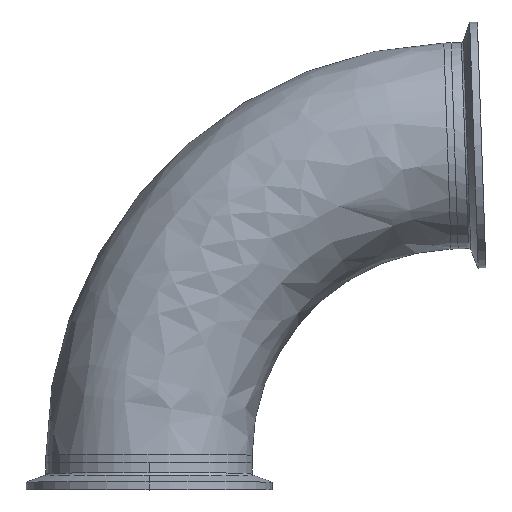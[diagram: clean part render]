
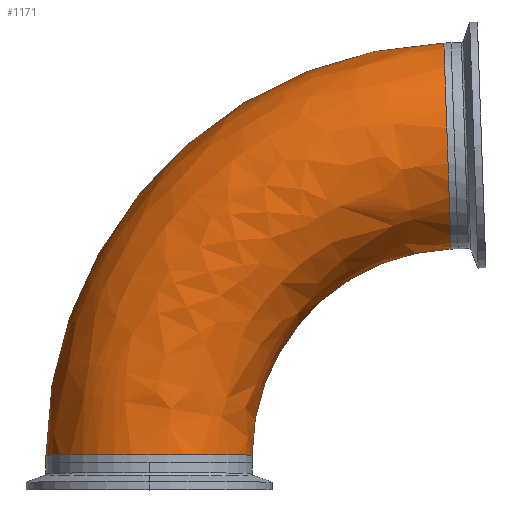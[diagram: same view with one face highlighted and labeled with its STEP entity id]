
A CAD part, top view. The second image highlights one B-rep face of the part: STEP entity #1171.
In plain terms, the highlighted free-form (B-spline) face has degree [3, 3] with [4, 4] control points.
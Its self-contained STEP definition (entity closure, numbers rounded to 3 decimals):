
#4 = CARTESIAN_POINT ( 'NONE',  ( 110.311, 117.069, 0. ) ) ;
#19 = CARTESIAN_POINT ( 'NONE',  ( 111.641, 78.992, 0. ) ) ;
#57 = DIRECTION ( 'NONE',  ( 0., 0., -1. ) ) ;
#105 = DIRECTION ( 'NONE',  ( -1., 0., 0. ) ) ;
#133 = DIRECTION ( 'NONE',  ( 0., 1., 0. ) ) ;
#251 = DIRECTION ( 'NONE',  ( -0.035, 0.999, 0. ) ) ;
#258 = CARTESIAN_POINT ( 'NONE',  ( 68.256, 77.477, 0. ) ) ;
#271 = CARTESIAN_POINT ( 'NONE',  ( 38.1, 46.25, 0. ) ) ;
#287 = CARTESIAN_POINT ( 'NONE',  ( 38.1, 2.839, 0. ) ) ;
#301 = CARTESIAN_POINT ( 'NONE',  ( 111.641, 78.992, 76.2 ) ) ;
#324 = VERTEX_POINT ( 'NONE', #2153 ) ;
#326 = CARTESIAN_POINT ( 'NONE',  ( 114.3, 2.839, 0. ) ) ;
#393 = DIRECTION ( 'NONE',  ( -1., 0., 0. ) ) ;
#515 = CARTESIAN_POINT ( 'NONE',  ( 68.256, 77.477, 76.2 ) ) ;
#667 = EDGE_LOOP ( 'NONE', ( #1144, #1099, #1601, #1550 ) ) ;
#724 = AXIS2_PLACEMENT_3D ( 'NONE', #2764, #133, #393 ) ;
#726 = CARTESIAN_POINT ( 'NONE',  ( 111.641, 78.992, 0. ) ) ;
#948 = EDGE_CURVE ( 'NONE', #2539, #3235, #1587, .T. ) ;
#1002 = CARTESIAN_POINT ( 'NONE',  ( 38.1, 46.25, 76.2 ) ) ;
#1052 = VERTEX_POINT ( 'NONE', #1156 ) ;
#1076 = CARTESIAN_POINT ( 'NONE',  ( 114.3, 2.839, 0. ) ) ;
#1099 = ORIENTED_EDGE ( 'NONE', *, *, #948, .T. ) ;
#1108 = EDGE_CURVE ( 'NONE', #324, #2539, #1336, .T. ) ;
#1144 = ORIENTED_EDGE ( 'NONE', *, *, #1108, .T. ) ;
#1156 = CARTESIAN_POINT ( 'NONE',  ( 108.981, 155.146, 0. ) ) ;
#1171 = ADVANCED_FACE ( 'NONE', ( #1967 ), #1794, .T. ) ;
#1266 = CARTESIAN_POINT ( 'NONE',  ( 38.1, 2.839, 76.2 ) ) ;
#1277 = CARTESIAN_POINT ( 'NONE',  ( 108.981, 155.146, 76.2 ) ) ;
#1292 = CARTESIAN_POINT ( 'NONE',  ( 22.212, 152.116, 76.2 ) ) ;
#1336 = CIRCLE ( 'NONE', #724, 38.1 ) ;
#1341 = DIRECTION ( 'NONE',  ( -1., 0., 0. ) ) ;
#1550 = ORIENTED_EDGE ( 'NONE', *, *, #2787, .F. ) ;
#1565 = CARTESIAN_POINT ( 'NONE',  ( -38.1, 89.661, 76.2 ) ) ;
#1587 = CIRCLE ( 'NONE', #2017, 76.2 ) ;
#1601 = ORIENTED_EDGE ( 'NONE', *, *, #3302, .T. ) ;
#1615 = AXIS2_PLACEMENT_3D ( 'NONE', #4, #1792, #251 ) ;
#1792 = DIRECTION ( 'NONE',  ( -0.999, -0.035, 0. ) ) ;
#1794 =( BOUNDED_SURFACE ( )  B_SPLINE_SURFACE ( 3, 3, ( 
 ( #2097, #2057, #1845, #1830 ),
 ( #1816, #1565, #1292, #1277 ),
 ( #1266, #1002, #515, #301 ),
 ( #287, #271, #258, #19 ) ),
 .UNSPECIFIED., .F., .F., .F. ) 
 B_SPLINE_SURFACE_WITH_KNOTS ( ( 4, 4 ),
 ( 4, 4 ),
 ( 0., 1. ),
 ( 0., 1. ),
 .UNSPECIFIED. ) 
 GEOMETRIC_REPRESENTATION_ITEM ( )  RATIONAL_B_SPLINE_SURFACE ( (
 ( 1., 0.813, 0.813, 1.),
 ( 0.333, 0.271, 0.271, 0.333),
 ( 0.333, 0.271, 0.271, 0.333),
 ( 1., 0.813, 0.813, 1.) ) ) 
 REPRESENTATION_ITEM ( '' )  SURFACE ( )  );
#1816 = CARTESIAN_POINT ( 'NONE',  ( -38.1, 2.839, 76.2 ) ) ;
#1830 = CARTESIAN_POINT ( 'NONE',  ( 108.981, 155.146, 0. ) ) ;
#1845 = CARTESIAN_POINT ( 'NONE',  ( 22.212, 152.116, 0. ) ) ;
#1967 = FACE_OUTER_BOUND ( 'NONE', #667, .T. ) ;
#2017 = AXIS2_PLACEMENT_3D ( 'NONE', #326, #57, #105 ) ;
#2057 = CARTESIAN_POINT ( 'NONE',  ( -38.1, 89.661, 0. ) ) ;
#2097 = CARTESIAN_POINT ( 'NONE',  ( -38.1, 2.839, 0. ) ) ;
#2153 = CARTESIAN_POINT ( 'NONE',  ( -38.1, 2.839, 0. ) ) ;
#2484 = CIRCLE ( 'NONE', #2975, 152.4 ) ;
#2539 = VERTEX_POINT ( 'NONE', #2994 ) ;
#2764 = CARTESIAN_POINT ( 'NONE',  ( 0., 2.839, 0. ) ) ;
#2787 = EDGE_CURVE ( 'NONE', #324, #1052, #2484, .T. ) ;
#2920 = DIRECTION ( 'NONE',  ( 0., 0., -1. ) ) ;
#2975 = AXIS2_PLACEMENT_3D ( 'NONE', #1076, #2920, #1341 ) ;
#2994 = CARTESIAN_POINT ( 'NONE',  ( 38.1, 2.839, 0. ) ) ;
#3060 = CIRCLE ( 'NONE', #1615, 38.1 ) ;
#3235 = VERTEX_POINT ( 'NONE', #726 ) ;
#3302 = EDGE_CURVE ( 'NONE', #3235, #1052, #3060, .T. ) ;
